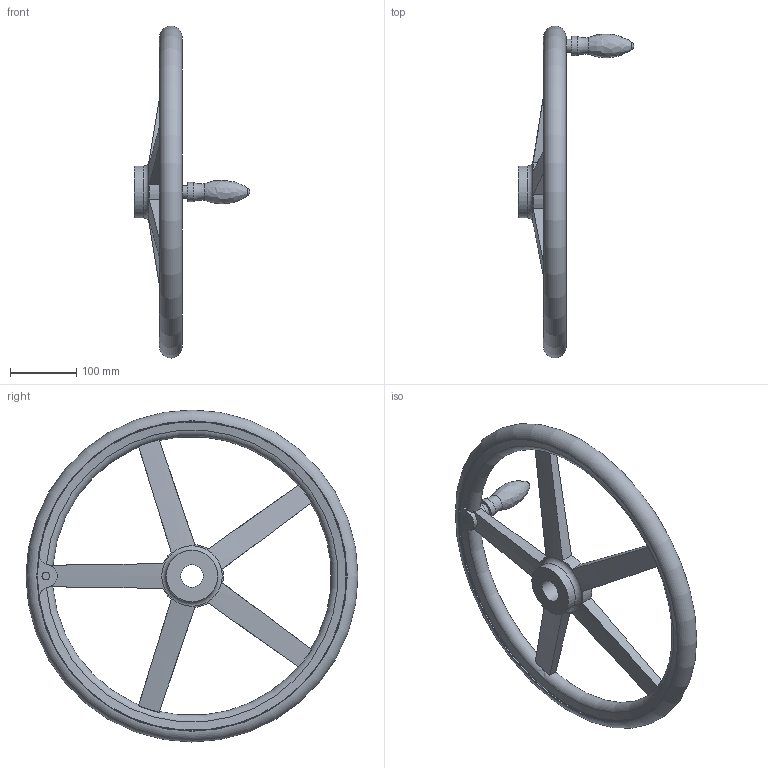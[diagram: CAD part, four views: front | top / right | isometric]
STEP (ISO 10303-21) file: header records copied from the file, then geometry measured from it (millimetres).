
FILE_DESCRIPTION( ( 'STEP AP203' ), '1' );
FILE_NAME( 'C:/Temp/Ganter_Step_05_03_2020/data/1_3/din_950/din_950_b/din_950_b_d/Handwheel DIN 950-AL-500-B34-D.stp', '2020-03-05T10:29:59', ( 'License CC BY-ND 4.0' ), ( 'CADENAS' ), ' ', 'PARTsolutions', ' ' );
FILE_SCHEMA( ( 'CONFIG_CONTROL_DESIGN' ) );
Length unit declared in the file: millimetre
Products named in the file (1): _Handwheel DIN 950-AL-500-B34-D
Bounding box: 174 x 499.98 x 499.98 mm (x, y, z)
Volume: 2156171.7 mm3; surface area: 289274.3 mm2
Topology: 1 solids, 1 shells, 63 faces, 182 edges, 117 vertices
Faces by surface type: torus 21, cylinder 18, plane 16, cone 6, bspline 1, sphere 1
Full cylindrical faces by diameter (mm): 20 x1, 29 x1, 34 x1, 78 x2, 466 x2
Entity records: 2535 total; most frequent: CARTESIAN_POINT 1017, ORIENTED_EDGE 310, DIRECTION 278, EDGE_CURVE 155, AXIS2_PLACEMENT_3D 132, VERTEX_POINT 113, EDGE_LOOP 92, FACE_OUTER_BOUND 79
